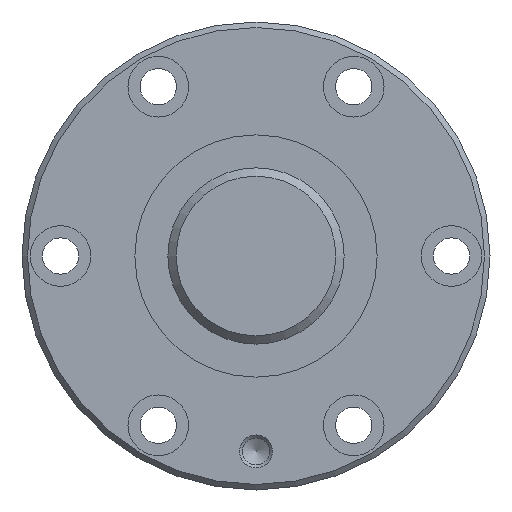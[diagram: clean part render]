
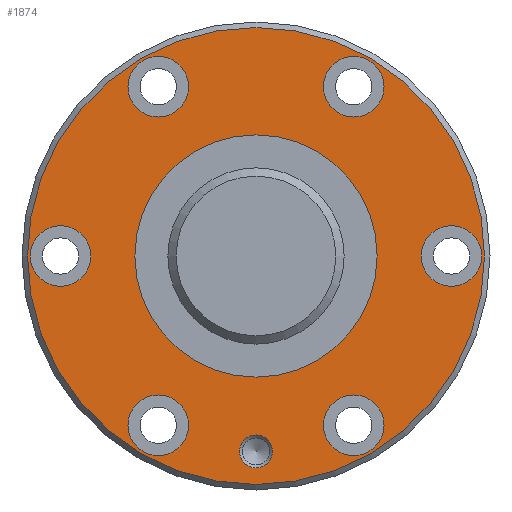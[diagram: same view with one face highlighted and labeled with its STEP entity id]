
A CAD part, left-side view. The second image highlights one B-rep face of the part: STEP entity #1874.
In plain terms, the highlighted planar face has unit normal (-1, 0, 0).
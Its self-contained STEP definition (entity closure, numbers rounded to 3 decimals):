
#452=ORIENTED_EDGE('',*,*,#936,.T.);
#453=ORIENTED_EDGE('',*,*,#937,.T.);
#454=ORIENTED_EDGE('',*,*,#938,.T.);
#455=ORIENTED_EDGE('',*,*,#939,.T.);
#456=ORIENTED_EDGE('',*,*,#940,.T.);
#457=ORIENTED_EDGE('',*,*,#941,.T.);
#458=ORIENTED_EDGE('',*,*,#942,.T.);
#459=ORIENTED_EDGE('',*,*,#943,.T.);
#460=ORIENTED_EDGE('',*,*,#944,.F.);
#936=EDGE_CURVE('',#1179,#1179,#1337,.T.);
#937=EDGE_CURVE('',#1180,#1180,#1338,.T.);
#938=EDGE_CURVE('',#1181,#1181,#1339,.T.);
#939=EDGE_CURVE('',#1182,#1182,#1340,.T.);
#940=EDGE_CURVE('',#1183,#1183,#1341,.T.);
#941=EDGE_CURVE('',#1184,#1184,#1342,.T.);
#942=EDGE_CURVE('',#1185,#1185,#1343,.T.);
#943=EDGE_CURVE('',#1186,#1186,#1344,.T.);
#944=EDGE_CURVE('',#1187,#1187,#1345,.T.);
#1179=VERTEX_POINT('',#2951);
#1180=VERTEX_POINT('',#2953);
#1181=VERTEX_POINT('',#2955);
#1182=VERTEX_POINT('',#2957);
#1183=VERTEX_POINT('',#2959);
#1184=VERTEX_POINT('',#2961);
#1185=VERTEX_POINT('',#2963);
#1186=VERTEX_POINT('',#2965);
#1187=VERTEX_POINT('',#2967);
#1337=CIRCLE('',#2032,22.);
#1338=CIRCLE('',#2033,5.5);
#1339=CIRCLE('',#2034,5.5);
#1340=CIRCLE('',#2035,3.);
#1341=CIRCLE('',#2036,5.5);
#1342=CIRCLE('',#2037,5.5);
#1343=CIRCLE('',#2038,5.5);
#1344=CIRCLE('',#2039,5.5);
#1345=CIRCLE('',#2040,41.5);
#1433=EDGE_LOOP('',(#452));
#1434=EDGE_LOOP('',(#453));
#1435=EDGE_LOOP('',(#454));
#1436=EDGE_LOOP('',(#455));
#1437=EDGE_LOOP('',(#456));
#1438=EDGE_LOOP('',(#457));
#1439=EDGE_LOOP('',(#458));
#1440=EDGE_LOOP('',(#459));
#1441=EDGE_LOOP('',(#460));
#1621=FACE_BOUND('',#1433,.T.);
#1622=FACE_BOUND('',#1434,.T.);
#1623=FACE_BOUND('',#1435,.T.);
#1624=FACE_BOUND('',#1436,.T.);
#1625=FACE_BOUND('',#1437,.T.);
#1626=FACE_BOUND('',#1438,.T.);
#1627=FACE_BOUND('',#1439,.T.);
#1628=FACE_BOUND('',#1440,.T.);
#1629=FACE_BOUND('',#1441,.T.);
#1800=PLANE('',#2031);
#1874=ADVANCED_FACE('',(#1621,#1622,#1623,#1624,#1625,#1626,#1627,#1628,
#1629),#1800,.T.);
#2031=AXIS2_PLACEMENT_3D('',#2949,#2296,#2297);
#2032=AXIS2_PLACEMENT_3D('',#2950,#2298,#2299);
#2033=AXIS2_PLACEMENT_3D('',#2952,#2300,#2301);
#2034=AXIS2_PLACEMENT_3D('',#2954,#2302,#2303);
#2035=AXIS2_PLACEMENT_3D('',#2956,#2304,#2305);
#2036=AXIS2_PLACEMENT_3D('',#2958,#2306,#2307);
#2037=AXIS2_PLACEMENT_3D('',#2960,#2308,#2309);
#2038=AXIS2_PLACEMENT_3D('',#2962,#2310,#2311);
#2039=AXIS2_PLACEMENT_3D('',#2964,#2312,#2313);
#2040=AXIS2_PLACEMENT_3D('',#2966,#2314,#2315);
#2296=DIRECTION('',(-1.,0.,0.));
#2297=DIRECTION('',(0.,0.,1.));
#2298=DIRECTION('',(1.,0.,0.));
#2299=DIRECTION('',(0.,0.,-1.));
#2300=DIRECTION('',(1.,0.,0.));
#2301=DIRECTION('',(0.,0.,-1.));
#2302=DIRECTION('',(1.,0.,0.));
#2303=DIRECTION('',(0.,0.,-1.));
#2304=DIRECTION('',(1.,0.,0.));
#2305=DIRECTION('',(0.,0.,-1.));
#2306=DIRECTION('',(1.,0.,0.));
#2307=DIRECTION('',(0.,0.,-1.));
#2308=DIRECTION('',(1.,0.,0.));
#2309=DIRECTION('',(0.,0.,-1.));
#2310=DIRECTION('',(1.,0.,0.));
#2311=DIRECTION('',(0.,0.,-1.));
#2312=DIRECTION('',(1.,0.,0.));
#2313=DIRECTION('',(0.,0.,-1.));
#2314=DIRECTION('',(1.,0.,0.));
#2315=DIRECTION('',(0.,0.,-1.));
#2949=CARTESIAN_POINT('',(0.,41.5,0.));
#2950=CARTESIAN_POINT('',(0.,0.,0.));
#2951=CARTESIAN_POINT('',(0.,0.,-22.));
#2952=CARTESIAN_POINT('',(0.,-30.744,-17.75));
#2953=CARTESIAN_POINT('',(0.,-30.744,-23.25));
#2954=CARTESIAN_POINT('',(0.,30.744,17.75));
#2955=CARTESIAN_POINT('',(0.,30.744,12.25));
#2956=CARTESIAN_POINT('',(0.,-35.5,0.));
#2957=CARTESIAN_POINT('',(0.,-35.5,-3.));
#2958=CARTESIAN_POINT('',(0.,0.,35.5));
#2959=CARTESIAN_POINT('',(0.,0.,30.));
#2960=CARTESIAN_POINT('',(0.,-30.744,17.75));
#2961=CARTESIAN_POINT('',(0.,-30.744,12.25));
#2962=CARTESIAN_POINT('',(0.,0.,-35.5));
#2963=CARTESIAN_POINT('',(0.,0.,-41.));
#2964=CARTESIAN_POINT('',(0.,30.744,-17.75));
#2965=CARTESIAN_POINT('',(0.,30.744,-23.25));
#2966=CARTESIAN_POINT('',(0.,0.,0.));
#2967=CARTESIAN_POINT('',(0.,0.,-41.5));
